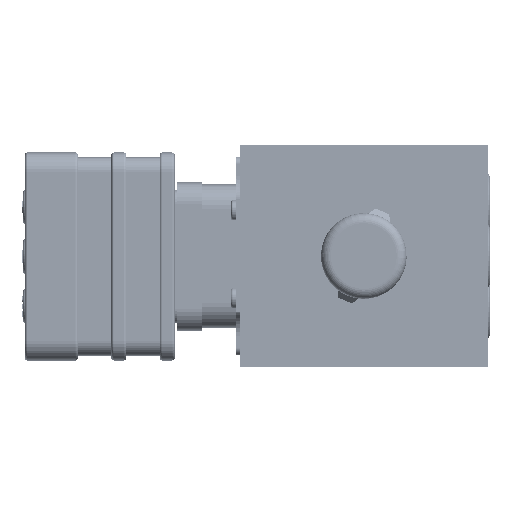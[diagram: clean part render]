
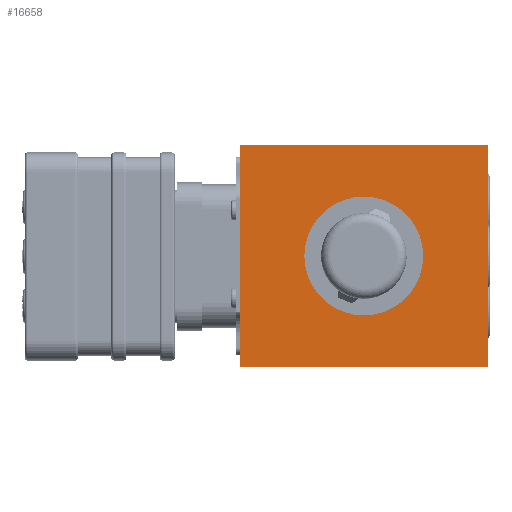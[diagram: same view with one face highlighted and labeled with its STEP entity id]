
A CAD part, left-side view. The second image highlights one B-rep face of the part: STEP entity #16658.
In plain terms, the highlighted planar face has unit normal (-1, 0, 0).
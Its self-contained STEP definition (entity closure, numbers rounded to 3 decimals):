
#6927=FACE_BOUND('',#23609,.T.);
#6928=FACE_BOUND('',#23610,.T.);
#9871=LINE('',#109641,#13605);
#9875=LINE('',#109788,#13609);
#9876=LINE('',#109790,#13610);
#9877=LINE('',#109792,#13611);
#13605=VECTOR('',#63252,1.);
#13609=VECTOR('',#63286,1.);
#13610=VECTOR('',#63287,1.);
#13611=VECTOR('',#63288,1.);
#16658=ADVANCED_FACE('',(#6927,#6928),#18639,.T.);
#18639=PLANE('',#53815);
#23609=EDGE_LOOP('',(#34406));
#23610=EDGE_LOOP('',(#34407,#34408,#34409,#34410));
#25897=CIRCLE('',#53814,10.);
#34406=ORIENTED_EDGE('',*,*,#47494,.T.);
#34407=ORIENTED_EDGE('',*,*,#47495,.F.);
#34408=ORIENTED_EDGE('',*,*,#47496,.T.);
#34409=ORIENTED_EDGE('',*,*,#47497,.T.);
#34410=ORIENTED_EDGE('',*,*,#47471,.F.);
#41784=VERTEX_POINT('',#109640);
#41785=VERTEX_POINT('',#109642);
#41807=VERTEX_POINT('',#109787);
#41808=VERTEX_POINT('',#109789);
#41809=VERTEX_POINT('',#109791);
#47471=EDGE_CURVE('',#41784,#41785,#9871,.T.);
#47494=EDGE_CURVE('',#41807,#41807,#25897,.T.);
#47495=EDGE_CURVE('',#41808,#41784,#9875,.T.);
#47496=EDGE_CURVE('',#41808,#41809,#9876,.T.);
#47497=EDGE_CURVE('',#41809,#41785,#9877,.T.);
#53814=AXIS2_PLACEMENT_3D('',#109786,#63284,#63285);
#53815=AXIS2_PLACEMENT_3D('',#109793,#63289,#63290);
#63252=DIRECTION('',(0.,1.,0.));
#63284=DIRECTION('',(1.,0.,0.));
#63285=DIRECTION('',(0.,-1.,0.));
#63286=DIRECTION('',(0.,0.,-1.));
#63287=DIRECTION('',(0.,1.,0.));
#63288=DIRECTION('',(0.,0.,-1.));
#63289=DIRECTION('',(-1.,0.,0.));
#63290=DIRECTION('',(0.,0.,1.));
#109640=CARTESIAN_POINT('',(47.784,210.704,-22.5));
#109641=CARTESIAN_POINT('',(47.784,110.704,-22.5));
#109642=CARTESIAN_POINT('',(47.784,260.704,-22.5));
#109786=CARTESIAN_POINT('',(47.784,235.704,0.));
#109787=CARTESIAN_POINT('',(47.784,225.704,0.));
#109788=CARTESIAN_POINT('',(47.784,210.704,127.5));
#109789=CARTESIAN_POINT('',(47.784,210.704,22.5));
#109790=CARTESIAN_POINT('',(47.784,110.704,22.5));
#109791=CARTESIAN_POINT('',(47.784,260.704,22.5));
#109792=CARTESIAN_POINT('',(47.784,260.704,0.));
#109793=CARTESIAN_POINT('',(47.784,110.704,0.));
